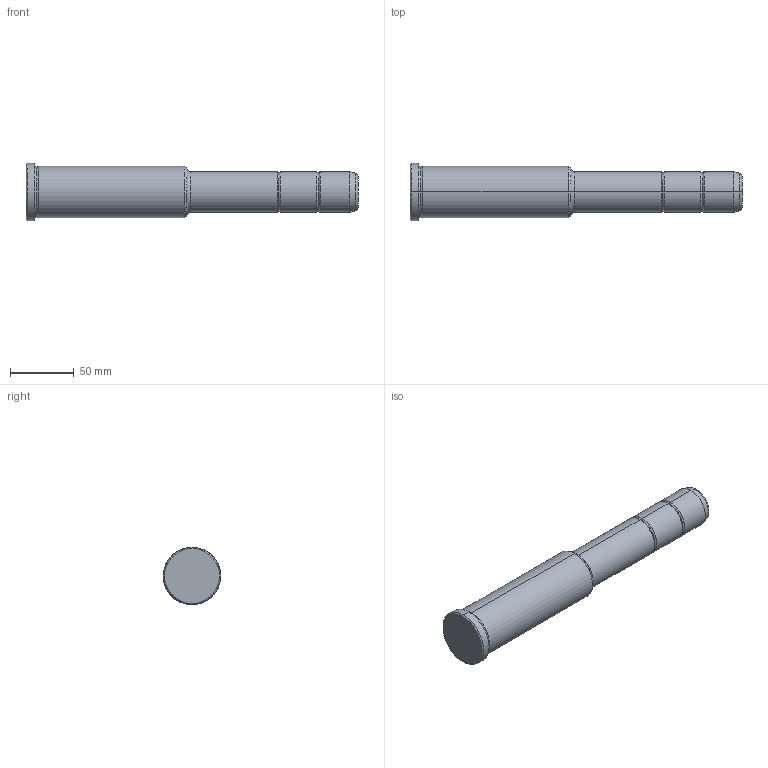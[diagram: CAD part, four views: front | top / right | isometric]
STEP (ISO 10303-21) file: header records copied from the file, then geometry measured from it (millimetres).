
FILE_DESCRIPTION(('CATIA V5 STEP Exchange'),'2;1');
FILE_NAME('C:\Users\Utente\Desktop\IO LAVORO\3D X SITO CF\X SITO\PLASTICA\351\351-32X126X260.stp','2021-09-15T12:24:36+00:00',('none'),('none'),'CATIA Version 5 Release 20 GA (IN-10)','CATIA V5 STEP AP203','none');
FILE_SCHEMA(('CONFIG_CONTROL_DESIGN'));
Length unit declared in the file: millimetre
Products named in the file (1): 351-32X126X260
Bounding box: 260 x 45 x 45 mm (x, y, z)
Volume: 267236.8 mm3; surface area: 32166.3 mm2
Topology: 1 solids, 1 shells, 36 faces, 102 edges, 70 vertices
Faces by surface type: torus 16, cylinder 10, cone 6, plane 4
Entity records: 1292 total; most frequent: CARTESIAN_POINT 321, ORIENTED_EDGE 204, DIRECTION 166, AXIS2_PLACEMENT_3D 115, EDGE_CURVE 102, CIRCLE 78, VERTEX_POINT 70, EDGE_LOOP 38
